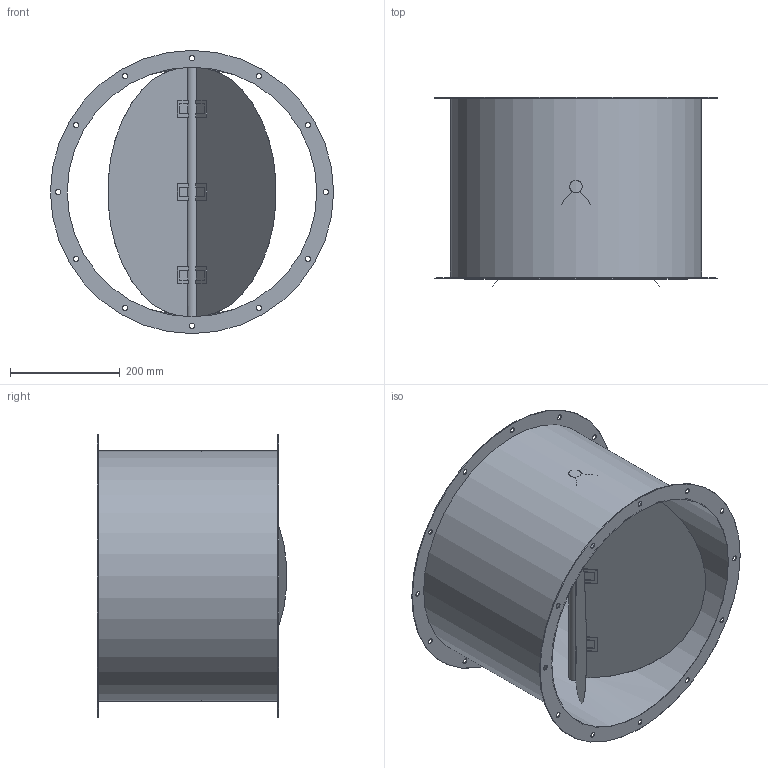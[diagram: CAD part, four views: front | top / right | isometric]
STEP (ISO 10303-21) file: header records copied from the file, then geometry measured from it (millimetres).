
FILE_DESCRIPTION(/* description */ (''),/* implementation_level */ '2;1');
FILE_NAME(/* name */ 'Z:\Output\RVS_450-02597-001.stp',/* time_stamp */ '2020-06-26T09:33:27+02:00',/* author */ ('engineering1'),/* organization */ (''),/* preprocessor_version */ 'ST-DEVELOPER v17.2',/* originating_system */ 'Autodesk Inventor 2019',/* authorisation */ '');
FILE_SCHEMA (('AUTOMOTIVE_DESIGN { 1 0 10303 214 3 1 1 }'));
Length unit declared in the file: millimetre
Products named in the file (1): RVS-1
Bounding box: 515 x 344.4 x 515 mm (x, y, z)
Volume: 1043905.8 mm3; surface area: 1481516.8 mm2
Topology: 1 solids, 1 shells, 150 faces, 454 edges, 280 vertices
Faces by surface type: plane 118, cylinder 32
Full cylindrical faces by diameter (mm): 9.5 x24, 454 x1, 457 x1, 515 x2
Entity records: 5249 total; most frequent: CARTESIAN_POINT 967, ORIENTED_EDGE 908, DIRECTION 836, EDGE_CURVE 454, LINE 358, VECTOR 358, VERTEX_POINT 280, AXIS2_PLACEMENT_3D 239
